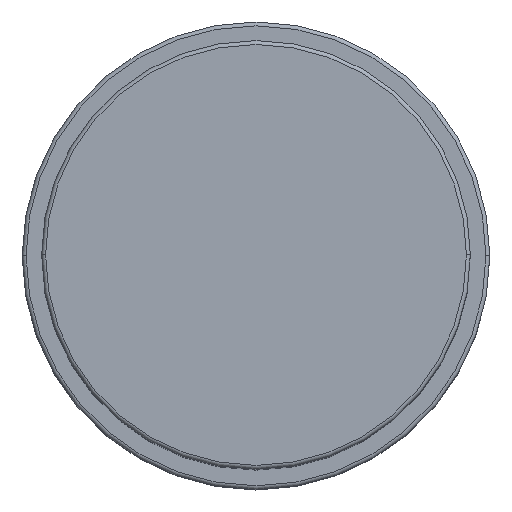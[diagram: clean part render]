
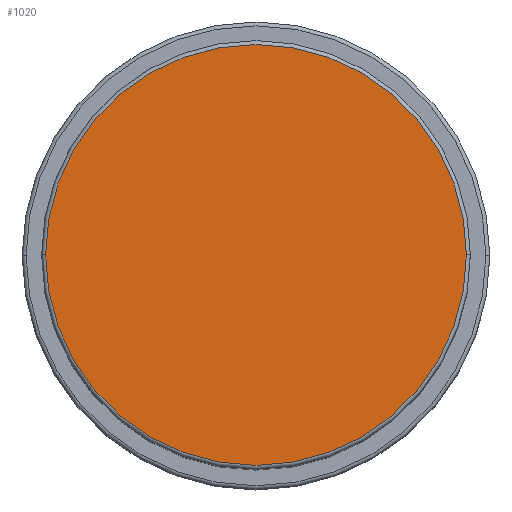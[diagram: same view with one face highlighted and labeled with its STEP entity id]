
A CAD part, top view. The second image highlights one B-rep face of the part: STEP entity #1020.
In plain terms, the highlighted planar face has unit normal (0, 0, 1).
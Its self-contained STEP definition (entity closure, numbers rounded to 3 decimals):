
#47 = CARTESIAN_POINT ( 'NONE',  ( 0., 0., 91. ) ) ;
#54 = PLANE ( 'NONE',  #814 ) ;
#105 = CARTESIAN_POINT ( 'NONE',  ( 27., 0., 91. ) ) ;
#148 = AXIS2_PLACEMENT_3D ( 'NONE', #1427, #1583, #1141 ) ;
#154 = CIRCLE ( 'NONE', #1876, 27. ) ;
#242 = CIRCLE ( 'NONE', #148, 27. ) ;
#336 = EDGE_LOOP ( 'NONE', ( #649, #1796 ) ) ;
#495 = DIRECTION ( 'NONE',  ( 0., 0., 1. ) ) ;
#649 = ORIENTED_EDGE ( 'NONE', *, *, #1586, .T. ) ;
#675 = DIRECTION ( 'NONE',  ( 1., 0., 0. ) ) ;
#710 = EDGE_CURVE ( 'NONE', #975, #1450, #154, .T. ) ;
#814 = AXIS2_PLACEMENT_3D ( 'NONE', #47, #495, #675 ) ;
#975 = VERTEX_POINT ( 'NONE', #1709 ) ;
#1020 = ADVANCED_FACE ( 'NONE', ( #1700 ), #54, .T. ) ;
#1140 = CARTESIAN_POINT ( 'NONE',  ( 0., 0., 91. ) ) ;
#1141 = DIRECTION ( 'NONE',  ( 1., 0., 0. ) ) ;
#1427 = CARTESIAN_POINT ( 'NONE',  ( 0., 0., 91. ) ) ;
#1446 = DIRECTION ( 'NONE',  ( 0., 0., 1. ) ) ;
#1450 = VERTEX_POINT ( 'NONE', #105 ) ;
#1583 = DIRECTION ( 'NONE',  ( 0., 0., 1. ) ) ;
#1586 = EDGE_CURVE ( 'NONE', #1450, #975, #242, .T. ) ;
#1700 = FACE_OUTER_BOUND ( 'NONE', #336, .T. ) ;
#1709 = CARTESIAN_POINT ( 'NONE',  ( -27., 0., 91. ) ) ;
#1796 = ORIENTED_EDGE ( 'NONE', *, *, #710, .T. ) ;
#1876 = AXIS2_PLACEMENT_3D ( 'NONE', #1140, #1446, #1898 ) ;
#1898 = DIRECTION ( 'NONE',  ( 1., 0., 0. ) ) ;
